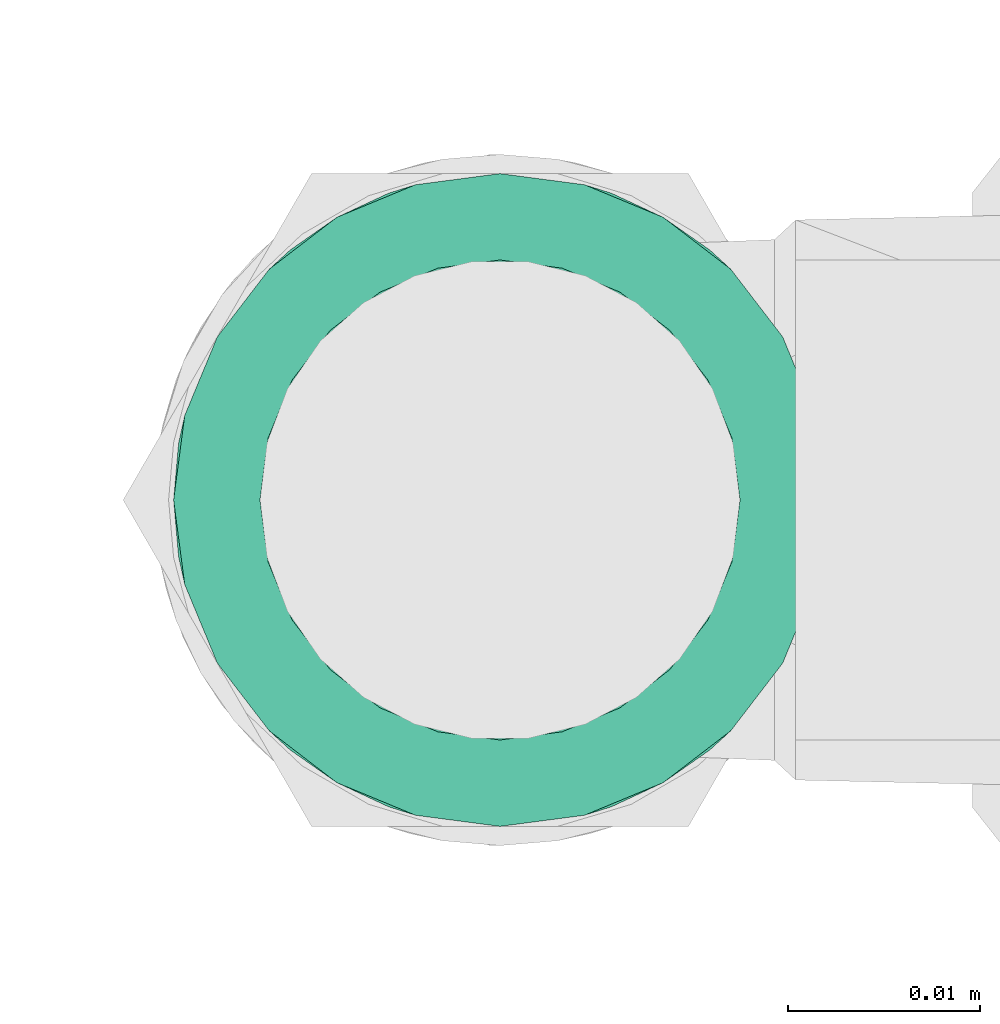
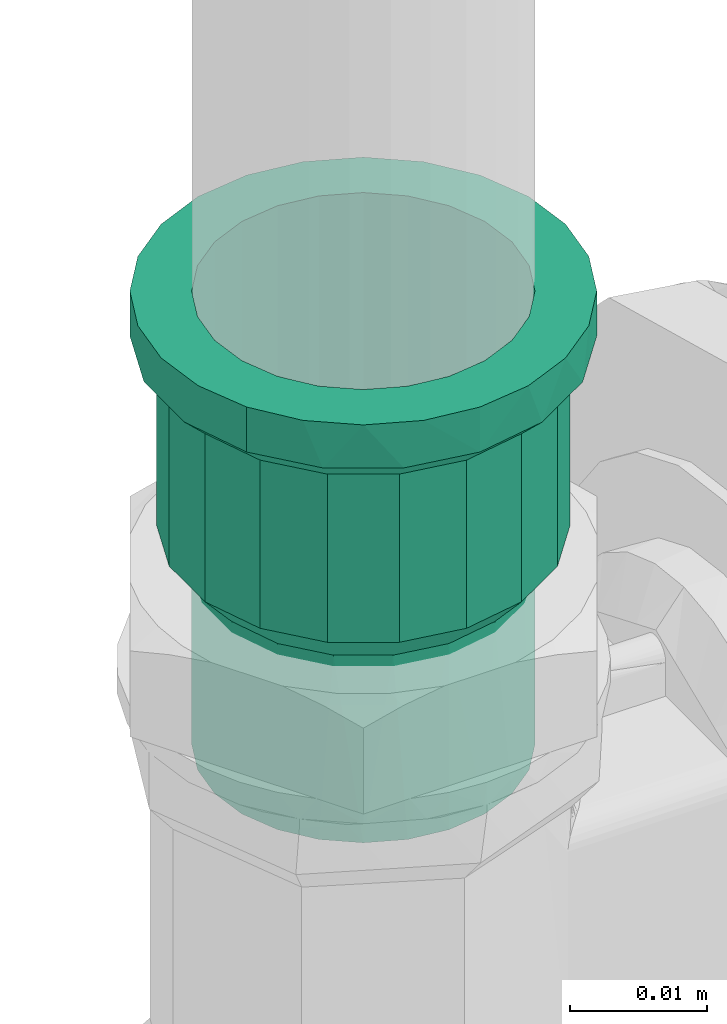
# One storey, part 305 of 589: 1 flow fitting.
"""IFC2X3 building model written with IfcOpenShell, lengths in millimetres."""

from ifc_helpers import new_model, entity, si_unit, converted_unit, derived_unit, direction, frame, origin, place, context, subcontext, project, spatial, faceted_brep, source, transform, mapped, material, type_object, type_shapes, element, save


model = new_model("IFC2X3")

# Units and contexts
model_context = context("Model", 3, precision=0.01, world=origin(), true_north=direction((6.123031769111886e-17, 1.0)))
body_context = subcontext(model_context, "Body", "Model", "MODEL_VIEW")
ifc_project = project(units=[si_unit("LENGTHUNIT", "METRE", prefix="MILLI"), si_unit("AREAUNIT", "SQUARE_METRE"), si_unit("VOLUMEUNIT", "CUBIC_METRE"), converted_unit("PLANEANGLEUNIT", "DEGREE", entity("IfcRatioMeasure", 0.017453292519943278), si_unit("PLANEANGLEUNIT", "RADIAN"), dimensions=[0, 0, 0, 0, 0, 0, 0]), si_unit("MASSUNIT", "GRAM", prefix="KILO"), derived_unit("MASSDENSITYUNIT", [(si_unit("MASSUNIT", "GRAM", prefix="KILO"), 1), (si_unit("LENGTHUNIT", "METRE"), -3)]), derived_unit("IONCONCENTRATIONUNIT", [(si_unit("MASSUNIT", "GRAM", prefix="KILO"), 1), (si_unit("LENGTHUNIT", "METRE"), -3)]), derived_unit("MOMENTOFINERTIAUNIT", [(si_unit("LENGTHUNIT", "METRE"), 4)]), si_unit("TIMEUNIT", "SECOND"), si_unit("FREQUENCYUNIT", "HERTZ"), si_unit("THERMODYNAMICTEMPERATUREUNIT", "DEGREE_CELSIUS"), derived_unit("THERMALTRANSMITTANCEUNIT", [(si_unit("MASSUNIT", "GRAM", prefix="KILO"), 1), (si_unit("THERMODYNAMICTEMPERATUREUNIT", "KELVIN"), -1), (si_unit("TIMEUNIT", "SECOND"), -3)]), derived_unit("THERMALCONDUCTANCEUNIT", [(si_unit("MASSUNIT", "GRAM", prefix="KILO"), 1), (si_unit("THERMODYNAMICTEMPERATUREUNIT", "KELVIN"), -1), (si_unit("TIMEUNIT", "SECOND"), -3), (si_unit("LENGTHUNIT", "METRE"), 1)]), derived_unit("VOLUMETRICFLOWRATEUNIT", [(si_unit("LENGTHUNIT", "METRE"), 3), (si_unit("TIMEUNIT", "SECOND"), -1)]), derived_unit("MASSFLOWRATEUNIT", [(si_unit("MASSUNIT", "GRAM", prefix="KILO"), 1), (si_unit("TIMEUNIT", "SECOND"), -1)]), derived_unit("ROTATIONALFREQUENCYUNIT", [(si_unit("TIMEUNIT", "SECOND"), -1)]), si_unit("ELECTRICCURRENTUNIT", "AMPERE"), si_unit("ELECTRICVOLTAGEUNIT", "VOLT"), si_unit("POWERUNIT", "WATT"), si_unit("FORCEUNIT", "NEWTON", prefix="KILO"), si_unit("ILLUMINANCEUNIT", "LUX"), si_unit("LUMINOUSFLUXUNIT", "LUMEN"), si_unit("LUMINOUSINTENSITYUNIT", "CANDELA"), derived_unit("USERDEFINED", [(si_unit("MASSUNIT", "GRAM", prefix="KILO"), -1), (si_unit("LENGTHUNIT", "METRE"), -2), (si_unit("TIMEUNIT", "SECOND"), 3), (si_unit("LUMINOUSFLUXUNIT", "LUMEN"), 1)]), derived_unit("USERDEFINED", [(si_unit("MASSUNIT", "GRAM", prefix="KILO"), 1), (si_unit("TIMEUNIT", "SECOND"), -3), (si_unit("LENGTHUNIT", "METRE"), 3), (si_unit("ELECTRICCURRENTUNIT", "AMPERE"), -2)]), derived_unit("SOUNDPOWERUNIT", [(si_unit("MASSUNIT", "GRAM", prefix="KILO"), 1), (si_unit("TIMEUNIT", "SECOND"), -3), (si_unit("LENGTHUNIT", "METRE"), 2)]), derived_unit("SOUNDPRESSUREUNIT", [(si_unit("MASSUNIT", "GRAM", prefix="KILO"), 1), (si_unit("LENGTHUNIT", "METRE"), -1), (si_unit("TIMEUNIT", "SECOND"), -2)]), derived_unit("LINEARVELOCITYUNIT", [(si_unit("LENGTHUNIT", "METRE"), 1), (si_unit("TIMEUNIT", "SECOND"), -1)]), si_unit("PRESSUREUNIT", "PASCAL"), derived_unit("USERDEFINED", [(si_unit("MASSUNIT", "GRAM", prefix="KILO"), 1), (si_unit("LENGTHUNIT", "METRE"), -2), (si_unit("TIMEUNIT", "SECOND"), -2)]), derived_unit("LINEARFORCEUNIT", [(si_unit("MASSUNIT", "GRAM", prefix="KILO"), 1), (si_unit("TIMEUNIT", "SECOND"), -2)]), derived_unit("PLANARFORCEUNIT", [(si_unit("MASSUNIT", "GRAM", prefix="KILO"), 1), (si_unit("LENGTHUNIT", "METRE"), -1), (si_unit("TIMEUNIT", "SECOND"), -2)]), derived_unit("SPECIFICHEATCAPACITYUNIT", [(si_unit("THERMODYNAMICTEMPERATUREUNIT", "KELVIN"), -1), (si_unit("LENGTHUNIT", "METRE"), 2), (si_unit("TIMEUNIT", "SECOND"), -2)]), derived_unit("HEATINGVALUEUNIT", [(si_unit("LENGTHUNIT", "METRE"), 2), (si_unit("TIMEUNIT", "SECOND"), -2)]), derived_unit("VAPORPERMEABILITYUNIT", [(si_unit("LENGTHUNIT", "METRE"), -1), (si_unit("TIMEUNIT", "SECOND"), 1)]), derived_unit("DYNAMICVISCOSITYUNIT", [(si_unit("MASSUNIT", "GRAM", prefix="KILO"), 1), (si_unit("TIMEUNIT", "SECOND"), -1), (si_unit("LENGTHUNIT", "METRE"), -1)]), derived_unit("THERMALEXPANSIONCOEFFICIENTUNIT", [(si_unit("THERMODYNAMICTEMPERATUREUNIT", "KELVIN"), -1)]), derived_unit("MODULUSOFELASTICITYUNIT", [(si_unit("MASSUNIT", "GRAM", prefix="KILO"), 1), (si_unit("LENGTHUNIT", "METRE"), -1), (si_unit("TIMEUNIT", "SECOND"), -2)]), derived_unit("ISOTHERMALMOISTURECAPACITYUNIT", [(si_unit("LENGTHUNIT", "METRE"), 3), (si_unit("MASSUNIT", "GRAM", prefix="KILO"), -1)]), derived_unit("MOISTUREDIFFUSIVITYUNIT", [(si_unit("TIMEUNIT", "SECOND"), -1), (si_unit("LENGTHUNIT", "METRE"), 2)])], contexts=[model_context])

# Site, building, storey
site_placement = place(None, origin())
site = spatial("IfcSite", under=ifc_project, at=site_placement, Name="Default", CompositionType="ELEMENT")
building_placement = place(site_placement, origin())
building = spatial("IfcBuilding", under=site, at=building_placement, CompositionType="ELEMENT")
storey_placement = place(building_placement, frame((0.0, 0.0, 100.0)))
storey = spatial("IfcBuildingStorey", under=building, at=storey_placement, Name="TÉRREO", CompositionType="ELEMENT", Elevation=100.0)

# Flow fitting
ifc_material = material(Name="PVC Marrom")
pipe_fitting_type = type_object("IfcPipeFittingType", Name="PVC Marrom Soldável_Adaptador Curto com Bolsa e Rosca Aninhado_Rodrigo MEP:Adaptador", PredefinedType="NOTDEFINED", material=ifc_material)
shared_shape = source(origin(), body_context, "Body", "Brep", [
    faceted_brep([(0.0, -8.500000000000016, -14.72243186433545), (0.0, -12.020815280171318, -12.0208152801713), (0.0, -6.2499999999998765, -10.825317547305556), (0.0, -3.2352380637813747, -12.07407282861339), (0.0, -4.399923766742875, -16.420739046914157), (0.0, -8.838834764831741, -8.83883476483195), (0.0, -14.722431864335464, -8.499999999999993), (0.0, -10.825317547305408, -6.250000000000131), (0.0, -12.074072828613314, -3.2352380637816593), (0.0, -16.42073904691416, -4.399923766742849), (0.0, -12.5, 0.0), (0.0, -17.0, 0.0), (0.0, -12.074072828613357, 3.2352380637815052), (0.0, -16.420739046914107, 4.399923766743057), (0.0, -10.825317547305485, 6.2499999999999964), (0.0, -14.722431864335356, 8.500000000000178), (0.0, -8.83883476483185, 8.838834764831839), (0.0, -12.020815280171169, 12.020815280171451), (0.0, -6.250000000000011, 10.82531754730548), (0.0, -8.499999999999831, 14.722431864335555), (0.0, -3.2352380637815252, 12.07407282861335), (0.0, -4.39992376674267, 16.42073904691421), (0.0, 0.0, 12.5), (0.0, 0.0, 17.0), (0.0, 3.2352380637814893, 12.07407282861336), (0.0, 4.399923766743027, 16.420739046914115), (0.0, 6.24999999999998, 10.825317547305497), (0.0, 8.500000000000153, 14.722431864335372), (0.0, 8.838834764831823, 8.838834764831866), (0.0, 12.020815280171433, 12.020815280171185), (0.0, 10.82531754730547, 6.250000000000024), (0.0, 14.722431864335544, 8.499999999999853), (0.0, 16.42073904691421, 4.399923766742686), (0.0, 12.074072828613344, 3.2352380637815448), (0.0, 17.0, 0.0), (0.0, 12.5, 0.0), (0.0, 16.42073904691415, -4.399923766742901), (0.0, 12.074072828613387, -3.235238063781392), (0.0, 14.722431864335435, -8.500000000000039), (0.0, 10.82531754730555, -6.249999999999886), (0.0, 12.02081528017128, -12.020815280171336), (0.0, 8.838834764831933, -8.838834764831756), (0.0, 8.499999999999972, -14.722431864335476), (0.0, 6.250000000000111, -10.825317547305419), (0.0, 4.399923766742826, -16.42073904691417), (0.0, 3.235238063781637, -12.074072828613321), (0.0, 0.0, -17.0), (0.0, 0.0, -12.5), (4.0, 15.974612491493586, 5.8147876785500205), (4.0, 16.487306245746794, 2.9073938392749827), (4.0, 10.760457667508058, 12.825628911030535), (4.0, 13.022146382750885, 10.928115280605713), (4.0, 14.498379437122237, 8.371451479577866), (4.0, 5.724460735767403, 15.732601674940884), (4.0, 2.9501525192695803, 16.742060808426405), (4.0, 16.599682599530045, 2.2701277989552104), (4.0, 17.0, 0.0), (4.0, 8.498768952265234, 14.723142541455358), (4.0, -8.502461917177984, 14.721010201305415), (4.0, -5.728407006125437, 15.731165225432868), (4.0, -2.954352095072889, 16.74132024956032), (4.0, -13.02488724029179, 10.924848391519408), (4.0, -10.763674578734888, 12.82292929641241), (4.0, -17.0, 0.0), (4.0, -15.976070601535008, 5.8107803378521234), (4.0, -14.5004789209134, 8.367814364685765), (4.0, -0.002099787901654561, 16.741690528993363), (4.0, -15.97607060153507, -5.810780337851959), (4.0, -10.763674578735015, -12.822929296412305), (4.0, -13.024887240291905, -10.92484839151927), (4.0, -14.500478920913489, -8.367814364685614), (4.0, -5.728407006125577, -15.731165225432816), (4.0, -2.9543520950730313, -16.741320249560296), (4.0, -8.502461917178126, -14.721010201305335), (4.0, 16.487306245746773, -2.907393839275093), (4.0, 8.498768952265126, -14.72314254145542), (4.0, 5.724460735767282, -15.732601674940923), (4.0, 2.950152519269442, -16.74206080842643), (4.0, 13.022146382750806, -10.928115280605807), (4.0, 10.760457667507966, -12.825628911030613), (4.0, 15.974612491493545, -5.814787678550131), (4.0, 14.498379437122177, -8.371451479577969), (4.0, -0.002099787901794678, -16.741690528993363), (4.0, 16.599682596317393, -2.270127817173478), (20.85, 14.535973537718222, 2.9149513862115), (20.85, 14.596115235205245, 2.5738986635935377), (20.850000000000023, 15.05, 0.0), (5.900000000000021, 15.05, 0.0), (5.900000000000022, 14.59611523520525, 2.5738986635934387), (5.900000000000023, 14.142230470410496, 5.147797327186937), (20.84999999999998, 14.142230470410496, 5.147797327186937), (20.849999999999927, 9.52616987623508, 11.354453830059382), (20.84999999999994, 11.528429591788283, 9.674596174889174), (5.900000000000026, 11.528429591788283, 9.674596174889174), (5.900000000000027, 9.526169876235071, 11.354453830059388), (5.900000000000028, 7.523910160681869, 13.034311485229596), (20.84999999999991, 7.523910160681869, 13.034311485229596), (20.849999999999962, 12.835330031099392, 7.411196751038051), (5.900000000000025, 12.83533003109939, 7.411196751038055), (20.849999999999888, 2.6117526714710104, 14.821647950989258), (20.849999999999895, 5.067831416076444, 13.927979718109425), (5.900000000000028, 5.067831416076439, 13.927979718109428), (5.900000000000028, 2.6117526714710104, 14.821647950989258), (20.849999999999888, -2.61547053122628, 14.820992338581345), (20.849999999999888, -0.0018589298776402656, 14.821320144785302), (5.900000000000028, -0.0018589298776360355, 14.8213201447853), (5.900000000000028, -2.615470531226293, 14.820992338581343), (20.849999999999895, -5.0713250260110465, 13.926708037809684), (5.900000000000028, -5.071325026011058, 13.92670803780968), (5.900000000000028, -7.527179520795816, 13.032423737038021), (20.849999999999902, -7.527179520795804, 13.032423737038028), (5.900000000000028, -9.52901778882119, 11.35206387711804), (5.900000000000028, -11.530856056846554, 9.671704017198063), (20.84999999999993, -11.530856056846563, 9.671704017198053), (20.849999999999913, -9.529017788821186, 11.352063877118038), (20.849999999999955, -12.837188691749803, 7.407976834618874), (5.900000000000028, -12.837188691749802, 7.407976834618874), (5.900000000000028, -14.143521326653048, 5.144249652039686), (20.849999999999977, -14.143521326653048, 5.144249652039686), (5.900000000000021, -15.05, 0.0), (20.850000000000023, -15.05, 0.0), (20.85000000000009, -14.143521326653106, -5.144249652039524), (5.900000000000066, -14.143521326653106, -5.144249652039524), (20.850000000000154, -7.527179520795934, -13.032423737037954), (20.85000000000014, -9.529017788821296, -11.352063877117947), (20.85000000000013, -11.530856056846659, -9.67170401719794), (5.900000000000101, -11.530856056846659, -9.67170401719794), (5.900000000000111, -9.529017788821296, -11.352063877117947), (5.900000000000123, -7.527179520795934, -13.032423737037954), (5.90000000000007, 12.835330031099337, -7.411196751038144), (5.900000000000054, 14.142230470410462, -5.147797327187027), (20.850000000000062, 14.142230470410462, -5.147797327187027), (20.850000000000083, 12.835330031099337, -7.411196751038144), (20.850000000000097, 11.528429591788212, -9.67459617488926), (5.900000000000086, 11.528429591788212, -9.67459617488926), (5.90000000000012, 5.067831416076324, -13.927979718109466), (5.900000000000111, 7.523910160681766, -13.034311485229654), (20.850000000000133, 7.523910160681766, -13.034311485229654), (20.85000000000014, 5.067831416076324, -13.927979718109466), (20.850000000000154, 2.6117526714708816, -14.821647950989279), (5.900000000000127, 2.6117526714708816, -14.821647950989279), (20.850000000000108, -12.837188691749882, -7.40797683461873), (5.900000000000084, -12.837188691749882, -7.407976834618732), (20.85000000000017, -2.6154705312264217, -14.82099233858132), (20.850000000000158, -5.071325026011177, -13.926708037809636), (5.900000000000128, -5.071325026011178, -13.926708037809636), (5.900000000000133, -2.6154705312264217, -14.82099233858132), (5.900000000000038, 14.596115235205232, -2.573898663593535), (20.85000000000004, 14.667751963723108, -2.1676596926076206), (20.850000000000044, 14.535973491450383, -2.91495164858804), (5.900000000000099, 9.526169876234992, -11.354453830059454), (20.850000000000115, 9.52616987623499, -11.354453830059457), (20.850000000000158, -0.0018589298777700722, -14.821320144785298), (5.900000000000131, -0.0018589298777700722, -14.821320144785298), (40.29999999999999, 0.0, -12.5), (40.29999999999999, 3.2352380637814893, -12.07407282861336), (40.29999999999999, 6.24999999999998, -10.825317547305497), (40.29999999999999, 8.838834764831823, -8.838834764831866), (40.29999999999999, 10.825317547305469, -6.2500000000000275), (40.29999999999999, 12.074072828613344, -3.2352380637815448), (40.29999999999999, 12.5, 0.0), (40.29999999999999, 12.074072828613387, 3.235238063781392), (40.29999999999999, 10.825317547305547, 6.249999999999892), (40.29999999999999, 8.838834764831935, 8.838834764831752), (40.29999999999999, 6.250000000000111, 10.825317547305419), (40.29999999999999, 3.235238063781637, 12.074072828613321), (40.29999999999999, 0.0, 12.5), (40.29999999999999, -3.2352380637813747, 12.07407282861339), (40.29999999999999, -6.2499999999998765, 10.825317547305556), (40.29999999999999, -8.838834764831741, 8.83883476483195), (40.29999999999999, -10.825317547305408, 6.250000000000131), (40.29999999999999, -12.074072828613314, 3.2352380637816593), (40.29999999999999, -12.5, 0.0), (40.29999999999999, -12.074072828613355, -3.2352380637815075), (40.29999999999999, -10.825317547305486, -6.249999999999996), (40.29999999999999, -8.83883476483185, -8.838834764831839), (40.29999999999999, -6.250000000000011, -10.82531754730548), (40.29999999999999, -3.2352380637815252, -12.07407282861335), (23.749999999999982, 12.5, 0.0), (23.74999999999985, 9.57510763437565, 8.035378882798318), (23.749999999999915, 11.746038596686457, 4.275579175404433), (23.749999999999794, 6.249094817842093, 10.825840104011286), (23.74999999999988, 10.66057311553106, 6.155479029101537), (23.74999999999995, 12.182518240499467, 1.8003818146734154), (23.74999999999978, 4.209162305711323, 11.56808946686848), (23.74999999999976, 2.1692297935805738, 12.310338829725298), (23.74999999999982, 7.912101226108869, 9.430609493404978), (23.749999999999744, -2.1723177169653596, 12.309794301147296), (23.749999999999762, -6.251810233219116, 10.824272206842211), (23.749999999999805, -9.577122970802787, 8.032976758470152), (23.749999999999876, -11.747110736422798, 4.272632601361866), (23.749999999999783, -7.9144666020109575, 9.428624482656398), (23.74999999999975, -4.212063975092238, 11.56703325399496), (23.749999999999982, -12.5, 0.0), (23.749999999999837, -10.662116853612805, 6.15280467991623), (23.74999999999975, -0.0015439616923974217, 12.31006656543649), (23.750000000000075, -9.577122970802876, -8.032976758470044), (23.75000000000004, -11.747110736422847, -4.272632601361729), (23.750000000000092, -6.2518102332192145, -10.824272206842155), (23.750000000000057, -10.662116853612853, -6.152804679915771), (23.7500000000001, -4.212063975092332, -11.56703325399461), (23.7500000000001, -2.1723177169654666, -12.309794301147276), (23.75000000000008, -7.914466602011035, -9.428624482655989), (23.750000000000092, 2.1692297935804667, -12.310338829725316), (23.750000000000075, 6.249094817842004, -10.82584010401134), (23.750000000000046, 9.575107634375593, -8.035378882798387), (23.750000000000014, 11.74603859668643, -4.275579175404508), (23.750000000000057, 7.912101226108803, -9.430609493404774), (23.75000000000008, 4.209162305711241, -11.56808946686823), (23.749999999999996, 12.123019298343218, -2.1377895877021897), (23.750000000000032, 10.660573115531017, -6.155479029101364), (23.750000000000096, -0.0015439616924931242, -12.310066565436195), (5.900000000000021, 12.07407282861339, -3.2352380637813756), (20.850000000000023, 12.07407282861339, -3.2352380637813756), (20.850000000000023, 12.5, 0.0), (5.900000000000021, 12.5, 0.0), (4.0, 12.5, 0.0), (4.0, 12.07407282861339, -3.2352380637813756), (5.900000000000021, 10.825317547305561, -6.249999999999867), (20.850000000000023, 10.825317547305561, -6.249999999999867), (4.0, 10.825317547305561, -6.249999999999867), (20.850000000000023, 6.250000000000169, -10.825317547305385), (20.850000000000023, 8.838834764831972, -8.838834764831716), (5.900000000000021, 8.838834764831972, -8.838834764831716), (4.0, 8.838834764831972, -8.838834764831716), (4.0, 6.250000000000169, -10.825317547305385), (5.900000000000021, 6.250000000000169, -10.825317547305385), (20.850000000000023, 3.235238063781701, -12.074072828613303), (4.0, 3.235238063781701, -12.074072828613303), (5.900000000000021, 3.235238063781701, -12.074072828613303), (20.850000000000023, 0.0, -12.5), (4.0, 0.0, -12.5), (5.900000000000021, 0.0, -12.5), (5.900000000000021, -3.2352380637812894, -12.074072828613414), (20.850000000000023, -3.2352380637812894, -12.074072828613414), (4.0, -3.2352380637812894, -12.074072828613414), (5.900000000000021, -6.24999999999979, -10.825317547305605), (20.850000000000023, -6.24999999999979, -10.825317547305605), (4.0, -6.24999999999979, -10.825317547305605), (20.850000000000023, -10.825317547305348, -6.250000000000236), (20.850000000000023, -8.838834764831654, -8.838834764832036), (5.900000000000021, -8.838834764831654, -8.838834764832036), (4.0, -8.838834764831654, -8.838834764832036), (4.0, -10.825317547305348, -6.250000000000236), (5.900000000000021, -10.825317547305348, -6.250000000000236), (20.850000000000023, -12.07407282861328, -3.2352380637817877), (4.0, -12.07407282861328, -3.2352380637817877), (5.900000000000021, -12.07407282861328, -3.2352380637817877), (20.850000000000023, -12.5, 0.0), (4.0, -12.5, 0.0), (5.900000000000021, -12.5, 0.0), (5.900000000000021, -12.074072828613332, 3.2352380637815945), (20.850000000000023, -12.074072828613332, 3.2352380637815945), (4.0, -12.074072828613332, 3.2352380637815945), (5.900000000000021, -10.82531754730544, 6.250000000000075), (20.850000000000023, -10.82531754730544, 6.250000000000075), (4.0, -10.82531754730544, 6.250000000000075), (20.850000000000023, -6.249999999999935, 10.825317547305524), (20.850000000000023, -8.838834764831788, 8.838834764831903), (5.900000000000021, -8.838834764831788, 8.838834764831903), (4.0, -8.838834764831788, 8.838834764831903), (4.0, -6.249999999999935, 10.825317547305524), (5.900000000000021, -6.249999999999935, 10.825317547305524), (20.850000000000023, -3.2352380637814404, 12.074072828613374), (4.0, -3.2352380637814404, 12.074072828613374), (5.900000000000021, -3.2352380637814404, 12.074072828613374), (20.850000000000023, 0.0, 12.5), (4.0, 0.0, 12.5), (5.900000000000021, 0.0, 12.5), (5.900000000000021, 3.2352380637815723, 12.074072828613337), (20.850000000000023, 3.2352380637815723, 12.074072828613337), (4.0, 3.2352380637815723, 12.074072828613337), (5.900000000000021, 6.250000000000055, 10.825317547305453), (20.850000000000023, 6.250000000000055, 10.825317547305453), (4.0, 6.250000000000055, 10.825317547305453), (20.850000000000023, 10.825317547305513, 6.249999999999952), (20.850000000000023, 8.838834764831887, 8.838834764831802), (5.900000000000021, 8.838834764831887, 8.838834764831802), (4.0, 8.838834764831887, 8.838834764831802), (4.0, 10.825317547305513, 6.249999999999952), (5.900000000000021, 10.825317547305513, 6.249999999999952), (20.850000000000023, 12.07407282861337, 3.2352380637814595), (4.0, 12.07407282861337, 3.2352380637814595), (5.900000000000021, 12.07407282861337, 3.2352380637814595)], [[[0, 1, 2]], [[0, 2, 3]], [[3, 4, 0]], [[2, 1, 5]], [[6, 5, 1]], [[7, 5, 6]], [[8, 7, 6]], [[8, 6, 9]], [[8, 9, 10]], [[10, 9, 11]], [[12, 10, 11]], [[12, 11, 13]], [[14, 12, 13]], [[14, 13, 15]], [[16, 14, 15]], [[15, 17, 16]], [[17, 18, 16]], [[18, 17, 19]], [[18, 19, 20]], [[21, 20, 19]], [[20, 21, 22]], [[22, 21, 23]], [[23, 24, 22]], [[24, 23, 25]], [[24, 25, 26]], [[27, 26, 25]], [[27, 28, 26]], [[27, 29, 28]], [[30, 28, 29]], [[31, 30, 29]], [[32, 30, 31]], [[33, 30, 32]], [[33, 32, 34]], [[34, 35, 33]], [[36, 35, 34]], [[36, 37, 35]], [[37, 36, 38]], [[39, 37, 38]], [[39, 38, 40]], [[39, 40, 41]], [[40, 42, 41]], [[41, 42, 43]], [[43, 42, 44]], [[44, 45, 43]], [[46, 45, 44]], [[4, 47, 46]], [[45, 46, 47]], [[4, 3, 47]], [[32, 48, 49]], [[50, 51, 29]], [[52, 48, 31, 51]], [[53, 25, 54]], [[48, 32, 31]], [[34, 49, 55, 56]], [[27, 57, 50]], [[29, 27, 50]], [[29, 51, 31]], [[19, 58, 59]], [[21, 19, 59]], [[53, 57, 27]], [[25, 53, 27]], [[54, 25, 23]], [[32, 49, 34]], [[59, 60, 21]], [[61, 62, 17]], [[63, 64, 13]], [[65, 61, 15, 64]], [[11, 63, 13]], [[17, 62, 19]], [[66, 54, 23, 60]], [[21, 60, 23]], [[61, 17, 15]], [[19, 62, 58]], [[13, 64, 15]], [[67, 63, 9]], [[68, 69, 1]], [[70, 67, 6, 69]], [[71, 4, 72]], [[67, 9, 6]], [[63, 11, 9]], [[4, 71, 0]], [[0, 73, 68]], [[1, 69, 6]], [[36, 34, 74]], [[42, 75, 76]], [[71, 73, 0]], [[44, 42, 76]], [[72, 4, 46]], [[1, 0, 68]], [[76, 77, 44]], [[78, 79, 40]], [[74, 80, 36]], [[81, 78, 38, 80]], [[36, 80, 38]], [[40, 79, 42]], [[82, 72, 46, 77]], [[44, 77, 46]], [[78, 40, 38]], [[42, 79, 75]], [[34, 56, 83, 74]], [[84, 85, 86, 87, 88, 89, 90]], [[91, 92, 93, 94, 95, 96]], [[92, 97, 90, 89, 98, 93]], [[99, 100, 96, 95, 101, 102]], [[103, 104, 99, 102, 105, 106]], [[107, 103, 106, 108, 109, 110]], [[111, 112, 113, 114, 110, 109]], [[115, 113, 112, 116, 117, 118]], [[117, 119, 120, 118]], [[121, 120, 119, 122]], [[123, 124, 125, 126, 127, 128]], [[129, 130, 131, 132, 133, 134]], [[135, 136, 137, 138, 139, 140]], [[125, 141, 121, 122, 142, 126]], [[143, 144, 123, 128, 145, 146]], [[131, 130, 147, 87, 86, 148, 149]], [[150, 134, 133, 151, 137, 136]], [[139, 152, 143, 146, 153, 140]], [[154, 155, 156, 157, 158, 159, 160, 161, 162, 163, 164, 165, 166, 167, 168, 169, 170, 171, 172, 173, 174, 175, 176, 177]], [[161, 160, 178]], [[163, 162, 179]], [[180, 162, 161]], [[181, 164, 163]], [[162, 180, 182, 179]], [[161, 178, 183, 180]], [[165, 181, 184, 185]], [[163, 179, 186, 181]], [[166, 165, 185]], [[165, 164, 181]], [[166, 187, 167]], [[167, 188, 168]], [[170, 169, 189]], [[188, 169, 168]], [[171, 170, 190]], [[169, 188, 191, 189]], [[167, 187, 192, 188]], [[190, 193, 171]], [[170, 189, 194, 190]], [[193, 172, 171]], [[166, 185, 195, 187]], [[173, 172, 193]], [[175, 174, 196]], [[197, 174, 173]], [[198, 176, 175]], [[174, 197, 199, 196]], [[173, 193, 197]], [[177, 198, 200, 201]], [[175, 196, 202, 198]], [[154, 177, 201]], [[177, 176, 198]], [[154, 203, 155]], [[155, 204, 156]], [[158, 157, 205]], [[204, 157, 156]], [[159, 158, 206]], [[157, 204, 207, 205]], [[155, 203, 208, 204]], [[159, 206, 209, 178]], [[158, 205, 210, 206]], [[178, 160, 159]], [[154, 201, 211, 203]], [[212, 213, 214, 215, 216, 35, 37, 217]], [[218, 219, 213, 212, 217, 37, 39, 220]], [[221, 222, 223, 224, 41, 43, 225, 226]], [[218, 220, 39, 41, 224, 223, 222, 219]], [[227, 221, 226, 225, 43, 45, 228, 229]], [[230, 227, 229, 228, 45, 47, 231, 232]], [[233, 234, 230, 232, 231, 47, 3, 235]], [[236, 237, 234, 233, 235, 3, 2, 238]], [[239, 240, 241, 242, 5, 7, 243, 244]], [[236, 238, 2, 5, 242, 241, 240, 237]], [[245, 239, 244, 243, 7, 8, 246, 247]], [[248, 245, 247, 246, 8, 10, 249, 250]], [[251, 252, 248, 250, 249, 10, 12, 253]], [[254, 255, 252, 251, 253, 12, 14, 256]], [[257, 258, 259, 260, 16, 18, 261, 262]], [[254, 256, 14, 16, 260, 259, 258, 255]], [[263, 257, 262, 261, 18, 20, 264, 265]], [[266, 263, 265, 264, 20, 22, 267, 268]], [[269, 270, 266, 268, 267, 22, 24, 271]], [[272, 273, 270, 269, 271, 24, 26, 274]], [[275, 276, 277, 278, 28, 30, 279, 280]], [[272, 274, 26, 28, 278, 277, 276, 273]], [[281, 275, 280, 279, 30, 33, 282, 283]], [[214, 281, 283, 282, 33, 35, 216, 215]], [[63, 67, 122, 119]], [[145, 128, 73, 71, 72, 146]], [[68, 73, 128, 127, 126, 69]], [[126, 142, 122, 67, 70, 69]], [[76, 75, 136, 135, 140, 77]], [[81, 80, 130, 129, 134, 78]], [[147, 130, 80, 74, 83, 56, 87]], [[140, 153, 146, 72, 82, 77]], [[134, 150, 136, 75, 79, 78]], [[89, 88, 87, 56, 55, 49, 48]], [[98, 89, 48, 52, 51, 93]], [[94, 93, 51, 50, 57, 95]], [[57, 53, 54, 102, 101, 95]], [[66, 60, 106, 105, 102, 54]], [[58, 109, 108, 106, 60, 59]], [[63, 119, 117, 64]], [[61, 65, 64, 117, 116, 112]], [[58, 62, 61, 112, 111, 109]], [[227, 230, 234, 237, 240, 239, 245, 248, 252, 255, 258, 257, 263, 266, 270, 273, 276, 275, 281, 214, 213, 219, 222, 221]], [[180, 183, 178, 86, 85, 84, 90]], [[100, 99, 185, 184, 181, 96]], [[181, 186, 179, 92, 91, 96]], [[179, 182, 180, 90, 97, 92]], [[104, 103, 187, 195, 185, 99]], [[115, 118, 190, 194, 189, 113]], [[107, 110, 188, 192, 187, 103]], [[118, 120, 193, 190]], [[189, 191, 188, 110, 114, 113]], [[120, 121, 197, 193]], [[200, 198, 123, 144, 143, 201]], [[124, 123, 198, 202, 196, 125]], [[196, 199, 197, 121, 141, 125]], [[138, 137, 204, 208, 203, 139]], [[132, 131, 206, 210, 205, 133]], [[209, 206, 131, 149, 148, 86, 178]], [[203, 211, 201, 143, 152, 139]], [[205, 207, 204, 137, 151, 133]]]),
])
type_shapes(pipe_fitting_type, [shared_shape])
flow_fitting_placement = place(storey_placement, frame((-7564.895534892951, -7547.53128383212, 1554.75), z_axis=(1.0, 0.0, 0.0), x_axis=(0.0, 0.0, -1.0)))
element("IfcFlowFitting", 1, at=flow_fitting_placement, inside=storey, type_object=pipe_fitting_type, material=ifc_material, Name="PVC Marrom Soldável_Adaptador Curto com Bolsa e Rosca Aninhado_Rodrigo MEP:Adaptador", ObjectType="PVC Marrom Soldável_Adaptador Curto com Bolsa e Rosca Aninhado_Rodrigo MEP:Adaptador", context=body_context, shape_type="MappedRepresentation", body=[
    mapped(shared_shape, transform((0.0, 0.0, 0.0), scale=1.0)),
])

save(model, "model.ifc")
